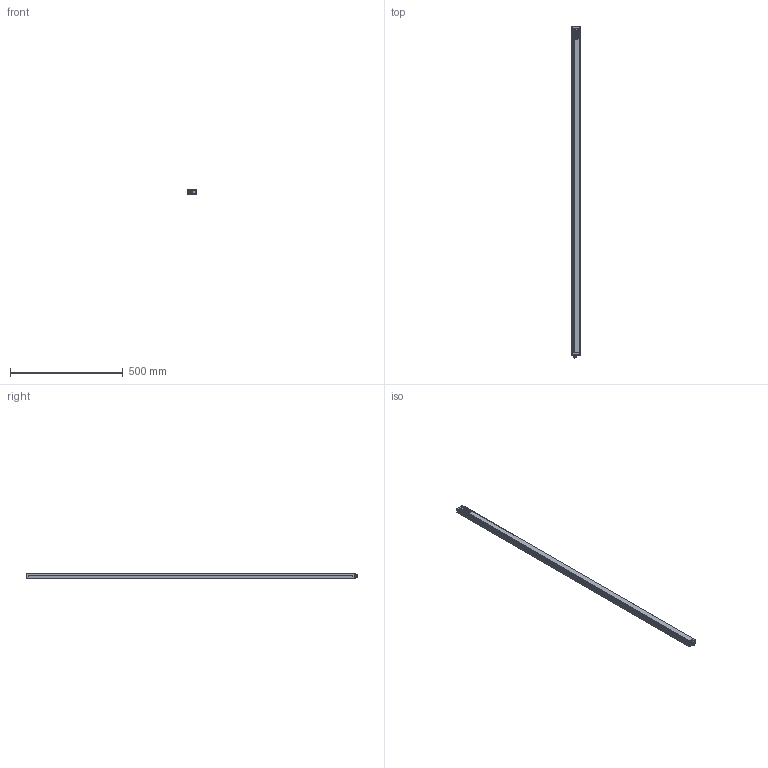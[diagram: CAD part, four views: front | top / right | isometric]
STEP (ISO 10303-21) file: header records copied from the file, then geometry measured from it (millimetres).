
FILE_DESCRIPTION(/* description */ (''),/* implementation_level */ '2;1');
FILE_NAME(/* name */ 'C:\Users\andre\SynologyDrive\Optoscan\Libreria Componenti\00 - Barriere\Polaris sorgente\Polaris_1440_TX.stp',/* time_stamp */ '2021-06-04T11:01:28+02:00',/* author */ ('andre'),/* organization */ (''),/* preprocessor_version */ 'ST-DEVELOPER v18',/* originating_system */ 'Autodesk Inventor 2020',/* authorisation */ '');
FILE_SCHEMA (('AUTOMOTIVE_DESIGN { 1 0 10303 214 3 1 1 }'));
Length unit declared in the file: millimetre
Products named in the file (1): Polaris_1440_TX
Bounding box: 40.5 x 1472.8 x 20.75 mm (x, y, z)
Volume: 290615.5 mm3; surface area: 383282.7 mm2
Topology: 1 solids, 1 shells, 744 faces, 2070 edges, 1333 vertices
Faces by surface type: plane 334, cylinder 207, bspline 115, torus 74, cone 8, sphere 6
Full cylindrical faces by diameter (mm): 1 x8, 2.459 x4, 2.5 x4, 3 x4, 3.5 x4, 5.5 x4, 8 x1, 10.5 x2, 11.75 x9, 12 x1, 12.3 x2, 14.5 x1, 16.7 x1, 17.5 x1
Entity records: 30693 total; most frequent: CARTESIAN_POINT 11308, ORIENTED_EDGE 4126, DIRECTION 3589, EDGE_CURVE 2063, VERTEX_POINT 1334, AXIS2_PLACEMENT_3D 1263, LINE 1063, VECTOR 1063
